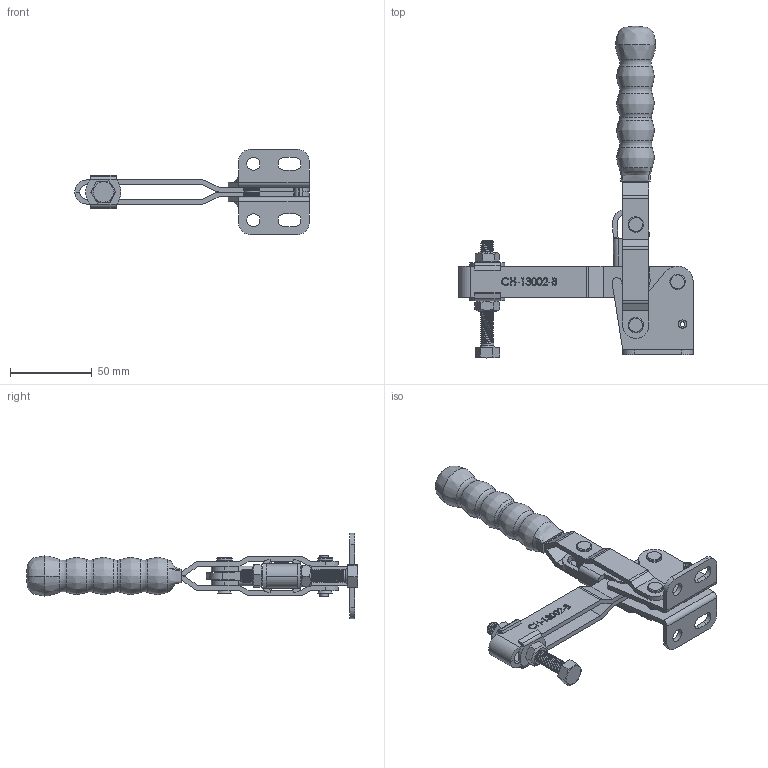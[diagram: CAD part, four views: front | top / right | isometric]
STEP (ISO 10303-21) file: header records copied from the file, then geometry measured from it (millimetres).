
FILE_DESCRIPTION(/* description */ ('STEP AP203'),/* implementation_level */ '2;1');
FILE_NAME(/* name */ 'D:\Vault_2016\Projekty\Clamptek\STRONA\Vertical toggle clamp\CH-13002-B\CH-13002-B_ZAMKNIETY.stp',/* time_stamp */ '2019-01-16T16:36:50+01:00',/* author */ ('Łukasz'),/* organization */ ('Î¢ÈíÖÐ¹ú'),/* preprocessor_version */ 'ST-DEVELOPER v17.2',/* originating_system */ 'Autodesk Inventor 2019',/* authorisation */ '');
FILE_SCHEMA (('AUTOMOTIVE_DESIGN { 1 0 10303 214 3 1 1 }'));
Products named in the file (14): CH-13002-B; CH-13002-B-10; CH-13002-B-03 HANDLE; CH-13002-B-06; CH-SA-086512 SPINDLE SUPPLIED; CH-13002-B-09; CH-13002-B-02 U-BAR; CH-13002-B-07; CH-13002-B-08; CH-FW-516; CH-13002-B-04 CONNECTING-PLATE; CH-13002-B-01 FLANGED BASE; M8 Nut; CH-13002-B-05
Assembly tree (19 placements, depth 2):
  CH-13002-B
    CH-13002-B-05  x2
    CH-13002-B-10
    M8 Nut  x2
    CH-FW-516  x2
    CH-13002-B-03 HANDLE
    CH-13002-B-09  x2
    CH-13002-B-06  x2
    CH-SA-086512 SPINDLE SUPPLIED
    CH-13002-B-08  x2
    CH-13002-B-02 U-BAR
    CH-13002-B-07
    CH-13002-B-04 CONNECTING-PLATE
    CH-13002-B-01 FLANGED BASE
Bounding box: 143.03 x 202.7 x 52 mm (x, y, z)
Volume: 89498.2 mm3; surface area: 66086.7 mm2
Topology: 22 solids, 22 shells, 2600 faces, 6387 edges, 3861 vertices
Faces by surface type: plane 1567, cylinder 783, bspline 208, cone 36, torus 6
Full cylindrical faces by diameter (mm): 2.095 x1, 2.384 x1, 5 x2, 6.4 x16, 6.5 x8, 8 x51, 8.1 x2, 9.4 x4, 9.5 x8
Entity records: 83394 total; most frequent: CARTESIAN_POINT 45087, ORIENTED_EDGE 8094, DIRECTION 7609, EDGE_CURVE 4047, AXIS2_PLACEMENT_3D 2674, VERTEX_POINT 2507, LINE 2261, VECTOR 2261
